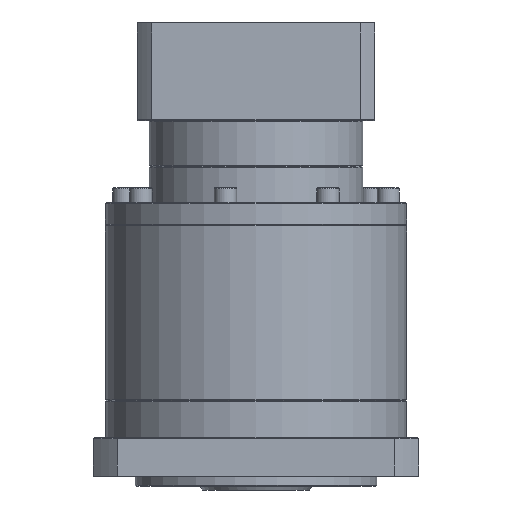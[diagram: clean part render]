
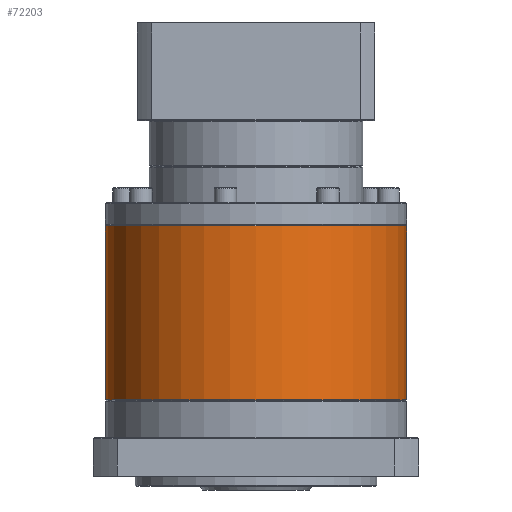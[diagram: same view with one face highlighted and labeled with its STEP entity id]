
A CAD part, front view. The second image highlights one B-rep face of the part: STEP entity #72203.
In plain terms, the highlighted cylindrical face has radius 81 mm (diameter 162 mm), a partial arc.
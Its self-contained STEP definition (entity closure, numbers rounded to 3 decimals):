
#4340 = VERTEX_POINT ( 'NONE', #83529 ) ;
#4342 = CIRCLE ( 'NONE', #33473, 81. ) ;
#7190 = CIRCLE ( 'NONE', #47749, 81. ) ;
#15430 = CARTESIAN_POINT ( 'NONE',  ( 53.106, 136.864, -62.88 ) ) ;
#15764 = DIRECTION ( 'NONE',  ( 0., 0., -1. ) ) ;
#16748 = CARTESIAN_POINT ( 'NONE',  ( 134.106, 136.864, -63.38 ) ) ;
#16793 = EDGE_CURVE ( 'NONE', #68502, #42656, #18037, .T. ) ;
#18037 = LINE ( 'NONE', #53456, #54091 ) ;
#18272 = DIRECTION ( 'NONE',  ( 0., 0., -1. ) ) ;
#19019 = DIRECTION ( 'NONE',  ( 0., 0., -1. ) ) ;
#19595 = VERTEX_POINT ( 'NONE', #49136 ) ;
#21372 = CYLINDRICAL_SURFACE ( 'NONE', #74148, 81. ) ;
#25657 = CARTESIAN_POINT ( 'NONE',  ( 53.106, 136.864, -63.38 ) ) ;
#25805 = ORIENTED_EDGE ( 'NONE', *, *, #71401, .T. ) ;
#26327 = DIRECTION ( 'NONE',  ( -1., 0., 0. ) ) ;
#27016 = DIRECTION ( 'NONE',  ( 0., 0., 1. ) ) ;
#27678 = DIRECTION ( 'NONE',  ( -1., 0., 0. ) ) ;
#33473 = AXIS2_PLACEMENT_3D ( 'NONE', #59213, #27016, #27678 ) ;
#39225 = DIRECTION ( 'NONE',  ( -1., 0., 0. ) ) ;
#39994 = VECTOR ( 'NONE', #19019, 1000. ) ;
#42656 = VERTEX_POINT ( 'NONE', #61831 ) ;
#44275 = EDGE_LOOP ( 'NONE', ( #52501, #25805, #88292, #94531 ) ) ;
#47749 = AXIS2_PLACEMENT_3D ( 'NONE', #25657, #18272, #26327 ) ;
#49136 = CARTESIAN_POINT ( 'NONE',  ( -27.894, 136.864, -63.38 ) ) ;
#52501 = ORIENTED_EDGE ( 'NONE', *, *, #16793, .F. ) ;
#53456 = CARTESIAN_POINT ( 'NONE',  ( 134.106, 136.864, -62.88 ) ) ;
#54091 = VECTOR ( 'NONE', #68529, 1000. ) ;
#57629 = CARTESIAN_POINT ( 'NONE',  ( -27.894, 136.864, -62.88 ) ) ;
#58431 = EDGE_CURVE ( 'NONE', #4340, #42656, #4342, .T. ) ;
#59213 = CARTESIAN_POINT ( 'NONE',  ( 53.106, 136.864, -156.88 ) ) ;
#60442 = LINE ( 'NONE', #57629, #39994 ) ;
#61831 = CARTESIAN_POINT ( 'NONE',  ( 134.106, 136.864, -156.88 ) ) ;
#66664 = EDGE_CURVE ( 'NONE', #19595, #4340, #60442, .T. ) ;
#68502 = VERTEX_POINT ( 'NONE', #16748 ) ;
#68529 = DIRECTION ( 'NONE',  ( 0., 0., -1. ) ) ;
#71401 = EDGE_CURVE ( 'NONE', #68502, #19595, #7190, .T. ) ;
#72203 = ADVANCED_FACE ( 'NONE', ( #98191 ), #21372, .T. ) ;
#74148 = AXIS2_PLACEMENT_3D ( 'NONE', #15430, #15764, #39225 ) ;
#83529 = CARTESIAN_POINT ( 'NONE',  ( -27.894, 136.864, -156.88 ) ) ;
#88292 = ORIENTED_EDGE ( 'NONE', *, *, #66664, .T. ) ;
#94531 = ORIENTED_EDGE ( 'NONE', *, *, #58431, .T. ) ;
#98191 = FACE_OUTER_BOUND ( 'NONE', #44275, .T. ) ;
